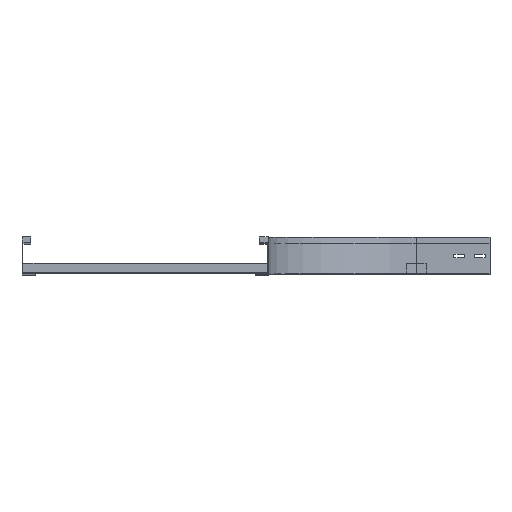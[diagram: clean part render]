
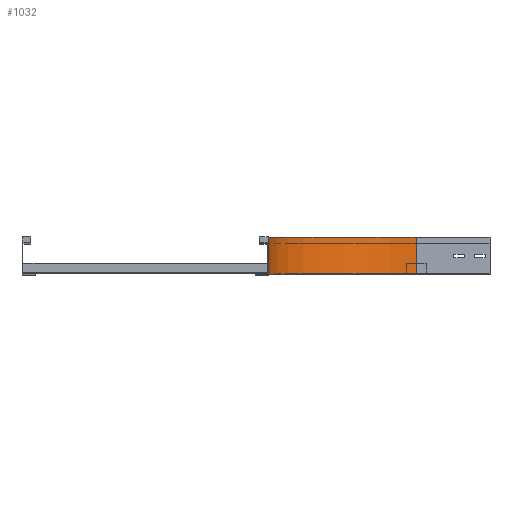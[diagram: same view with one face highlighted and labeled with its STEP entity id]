
A CAD part, top view. The second image highlights one B-rep face of the part: STEP entity #1032.
In plain terms, the highlighted cylindrical face has radius 300 mm (diameter 600 mm), a partial arc.
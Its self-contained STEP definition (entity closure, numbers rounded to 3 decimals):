
#22 = AXIS2_PLACEMENT_3D ( 'NONE', #655, #1863, #1581 ) ;
#68 = CARTESIAN_POINT ( 'NONE',  ( 300., 0., -450. ) ) ;
#159 = AXIS2_PLACEMENT_3D ( 'NONE', #3354, #670, #3584 ) ;
#275 = EDGE_CURVE ( 'NONE', #649, #1604, #502, .T. ) ;
#321 = ORIENTED_EDGE ( 'NONE', *, *, #1565, .T. ) ;
#434 = VECTOR ( 'NONE', #1711, 1000. ) ;
#502 = LINE ( 'NONE', #2026, #434 ) ;
#649 = VERTEX_POINT ( 'NONE', #2445 ) ;
#655 = CARTESIAN_POINT ( 'NONE',  ( 300., 0., -150. ) ) ;
#660 = EDGE_CURVE ( 'NONE', #649, #934, #2343, .T. ) ;
#670 = DIRECTION ( 'NONE',  ( 0., -1., 0. ) ) ;
#746 = ORIENTED_EDGE ( 'NONE', *, *, #2675, .F. ) ;
#766 = CARTESIAN_POINT ( 'NONE',  ( 300., 0., -150. ) ) ;
#934 = VERTEX_POINT ( 'NONE', #3018 ) ;
#1032 = ADVANCED_FACE ( 'NONE', ( #3142 ), #2799, .F. ) ;
#1101 = VECTOR ( 'NONE', #3028, 1000. ) ;
#1343 = DIRECTION ( 'NONE',  ( 0., 0., -1. ) ) ;
#1557 = CIRCLE ( 'NONE', #159, 300. ) ;
#1565 = EDGE_CURVE ( 'NONE', #934, #2746, #2492, .T. ) ;
#1581 = DIRECTION ( 'NONE',  ( -1., 0., 0. ) ) ;
#1604 = VERTEX_POINT ( 'NONE', #2743 ) ;
#1711 = DIRECTION ( 'NONE',  ( 0., 1., 0. ) ) ;
#1813 = AXIS2_PLACEMENT_3D ( 'NONE', #766, #3396, #1343 ) ;
#1863 = DIRECTION ( 'NONE',  ( 0., -1., 0. ) ) ;
#1962 = CARTESIAN_POINT ( 'NONE',  ( 300., 75., -450. ) ) ;
#2026 = CARTESIAN_POINT ( 'NONE',  ( 0., 0., -150. ) ) ;
#2343 = CIRCLE ( 'NONE', #22, 300. ) ;
#2445 = CARTESIAN_POINT ( 'NONE',  ( 0., 0., -150. ) ) ;
#2492 = LINE ( 'NONE', #68, #1101 ) ;
#2571 = ORIENTED_EDGE ( 'NONE', *, *, #660, .T. ) ;
#2675 = EDGE_CURVE ( 'NONE', #1604, #2746, #1557, .T. ) ;
#2743 = CARTESIAN_POINT ( 'NONE',  ( 0., 75., -150. ) ) ;
#2746 = VERTEX_POINT ( 'NONE', #1962 ) ;
#2762 = ORIENTED_EDGE ( 'NONE', *, *, #275, .F. ) ;
#2799 = CYLINDRICAL_SURFACE ( 'NONE', #1813, 300. ) ;
#2852 = EDGE_LOOP ( 'NONE', ( #746, #2762, #2571, #321 ) ) ;
#3018 = CARTESIAN_POINT ( 'NONE',  ( 300., 0., -450. ) ) ;
#3028 = DIRECTION ( 'NONE',  ( 0., 1., 0. ) ) ;
#3142 = FACE_OUTER_BOUND ( 'NONE', #2852, .T. ) ;
#3354 = CARTESIAN_POINT ( 'NONE',  ( 300., 75., -150. ) ) ;
#3396 = DIRECTION ( 'NONE',  ( 0., -1., 0. ) ) ;
#3584 = DIRECTION ( 'NONE',  ( -1., 0., 0. ) ) ;
